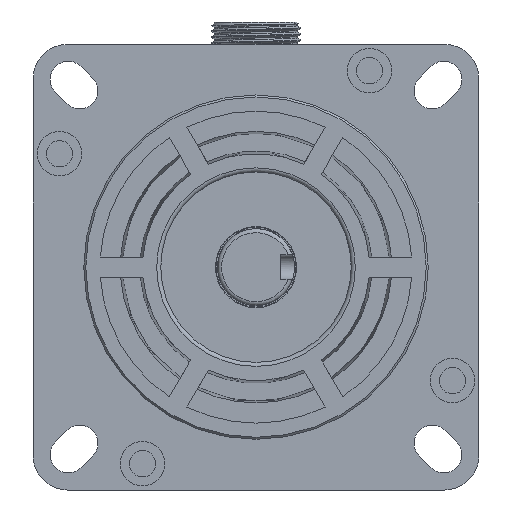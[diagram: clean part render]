
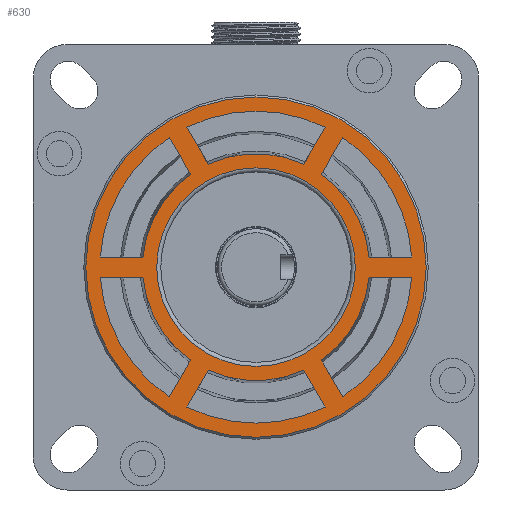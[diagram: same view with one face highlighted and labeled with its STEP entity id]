
A CAD part, front view. The second image highlights one B-rep face of the part: STEP entity #630.
In plain terms, the highlighted planar face has unit normal (0, -1, 0).
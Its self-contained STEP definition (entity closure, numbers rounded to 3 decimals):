
#630=ADVANCED_FACE('',(#1266,#1267,#1268,#1269,#1270,#1271,#1272,#1273),
#856,.T.);
#856=PLANE('',#5196);
#1050=CIRCLE('',#5182,42.);
#1051=CIRCLE('',#5183,38.5);
#1052=CIRCLE('',#5184,28.);
#1053=CIRCLE('',#5185,38.5);
#1054=CIRCLE('',#5186,28.);
#1055=CIRCLE('',#5187,38.5);
#1056=CIRCLE('',#5188,28.);
#1057=CIRCLE('',#5189,38.5);
#1058=CIRCLE('',#5190,28.);
#1059=CIRCLE('',#5191,38.5);
#1060=CIRCLE('',#5192,28.);
#1061=CIRCLE('',#5193,38.5);
#1062=CIRCLE('',#5194,28.);
#1063=CIRCLE('',#5195,24.5);
#1266=FACE_BOUND('',#1482,.T.);
#1267=FACE_BOUND('',#1483,.T.);
#1268=FACE_BOUND('',#1484,.T.);
#1269=FACE_BOUND('',#1485,.T.);
#1270=FACE_BOUND('',#1486,.T.);
#1271=FACE_BOUND('',#1487,.T.);
#1272=FACE_BOUND('',#1488,.T.);
#1273=FACE_BOUND('',#1489,.T.);
#1482=EDGE_LOOP('',(#2159));
#1483=EDGE_LOOP('',(#2160,#2161,#2162,#2163));
#1484=EDGE_LOOP('',(#2164,#2165,#2166,#2167));
#1485=EDGE_LOOP('',(#2168,#2169,#2170,#2171));
#1486=EDGE_LOOP('',(#2172,#2173,#2174,#2175));
#1487=EDGE_LOOP('',(#2176,#2177,#2178,#2179));
#1488=EDGE_LOOP('',(#2180,#2181,#2182,#2183));
#1489=EDGE_LOOP('',(#2184));
#2159=ORIENTED_EDGE('',*,*,#3786,.T.);
#2160=ORIENTED_EDGE('',*,*,#3787,.F.);
#2161=ORIENTED_EDGE('',*,*,#3788,.F.);
#2162=ORIENTED_EDGE('',*,*,#3789,.F.);
#2163=ORIENTED_EDGE('',*,*,#3790,.F.);
#2164=ORIENTED_EDGE('',*,*,#3791,.F.);
#2165=ORIENTED_EDGE('',*,*,#3792,.F.);
#2166=ORIENTED_EDGE('',*,*,#3793,.F.);
#2167=ORIENTED_EDGE('',*,*,#3794,.F.);
#2168=ORIENTED_EDGE('',*,*,#3795,.F.);
#2169=ORIENTED_EDGE('',*,*,#3796,.F.);
#2170=ORIENTED_EDGE('',*,*,#3797,.F.);
#2171=ORIENTED_EDGE('',*,*,#3798,.F.);
#2172=ORIENTED_EDGE('',*,*,#3799,.F.);
#2173=ORIENTED_EDGE('',*,*,#3800,.F.);
#2174=ORIENTED_EDGE('',*,*,#3801,.F.);
#2175=ORIENTED_EDGE('',*,*,#3802,.F.);
#2176=ORIENTED_EDGE('',*,*,#3803,.F.);
#2177=ORIENTED_EDGE('',*,*,#3804,.F.);
#2178=ORIENTED_EDGE('',*,*,#3805,.F.);
#2179=ORIENTED_EDGE('',*,*,#3806,.F.);
#2180=ORIENTED_EDGE('',*,*,#3807,.F.);
#2181=ORIENTED_EDGE('',*,*,#3808,.F.);
#2182=ORIENTED_EDGE('',*,*,#3809,.F.);
#2183=ORIENTED_EDGE('',*,*,#3810,.F.);
#2184=ORIENTED_EDGE('',*,*,#3811,.T.);
#3252=VERTEX_POINT('',#9883);
#3253=VERTEX_POINT('',#9885);
#3254=VERTEX_POINT('',#9886);
#3255=VERTEX_POINT('',#9888);
#3256=VERTEX_POINT('',#9890);
#3257=VERTEX_POINT('',#9893);
#3258=VERTEX_POINT('',#9894);
#3259=VERTEX_POINT('',#9896);
#3260=VERTEX_POINT('',#9898);
#3261=VERTEX_POINT('',#9901);
#3262=VERTEX_POINT('',#9902);
#3263=VERTEX_POINT('',#9904);
#3264=VERTEX_POINT('',#9906);
#3265=VERTEX_POINT('',#9909);
#3266=VERTEX_POINT('',#9910);
#3267=VERTEX_POINT('',#9912);
#3268=VERTEX_POINT('',#9914);
#3269=VERTEX_POINT('',#9917);
#3270=VERTEX_POINT('',#9918);
#3271=VERTEX_POINT('',#9920);
#3272=VERTEX_POINT('',#9922);
#3273=VERTEX_POINT('',#9925);
#3274=VERTEX_POINT('',#9926);
#3275=VERTEX_POINT('',#9928);
#3276=VERTEX_POINT('',#9930);
#3277=VERTEX_POINT('',#9933);
#3786=EDGE_CURVE('',#3252,#3252,#1050,.T.);
#3787=EDGE_CURVE('',#3253,#3254,#4352,.T.);
#3788=EDGE_CURVE('',#3255,#3253,#1051,.T.);
#3789=EDGE_CURVE('',#3256,#3255,#4353,.T.);
#3790=EDGE_CURVE('',#3254,#3256,#1052,.T.);
#3791=EDGE_CURVE('',#3257,#3258,#1053,.T.);
#3792=EDGE_CURVE('',#3259,#3257,#4354,.T.);
#3793=EDGE_CURVE('',#3260,#3259,#1054,.T.);
#3794=EDGE_CURVE('',#3258,#3260,#4355,.T.);
#3795=EDGE_CURVE('',#3261,#3262,#1055,.T.);
#3796=EDGE_CURVE('',#3263,#3261,#4356,.T.);
#3797=EDGE_CURVE('',#3264,#3263,#1056,.T.);
#3798=EDGE_CURVE('',#3262,#3264,#4357,.T.);
#3799=EDGE_CURVE('',#3265,#3266,#1057,.T.);
#3800=EDGE_CURVE('',#3267,#3265,#4358,.T.);
#3801=EDGE_CURVE('',#3268,#3267,#1058,.T.);
#3802=EDGE_CURVE('',#3266,#3268,#4359,.T.);
#3803=EDGE_CURVE('',#3269,#3270,#4360,.T.);
#3804=EDGE_CURVE('',#3271,#3269,#1059,.T.);
#3805=EDGE_CURVE('',#3272,#3271,#4361,.T.);
#3806=EDGE_CURVE('',#3270,#3272,#1060,.T.);
#3807=EDGE_CURVE('',#3273,#3274,#1061,.T.);
#3808=EDGE_CURVE('',#3275,#3273,#4362,.T.);
#3809=EDGE_CURVE('',#3276,#3275,#1062,.T.);
#3810=EDGE_CURVE('',#3274,#3276,#4363,.T.);
#3811=EDGE_CURVE('',#3277,#3277,#1063,.T.);
#4352=LINE('',#9884,#4714);
#4353=LINE('',#9889,#4715);
#4354=LINE('',#9895,#4716);
#4355=LINE('',#9899,#4717);
#4356=LINE('',#9903,#4718);
#4357=LINE('',#9907,#4719);
#4358=LINE('',#9911,#4720);
#4359=LINE('',#9915,#4721);
#4360=LINE('',#9916,#4722);
#4361=LINE('',#9921,#4723);
#4362=LINE('',#9927,#4724);
#4363=LINE('',#9931,#4725);
#4714=VECTOR('',#6065,1.);
#4715=VECTOR('',#6068,1.);
#4716=VECTOR('',#6073,1.);
#4717=VECTOR('',#6076,1.);
#4718=VECTOR('',#6079,1.);
#4719=VECTOR('',#6082,1.);
#4720=VECTOR('',#6085,1.);
#4721=VECTOR('',#6088,1.);
#4722=VECTOR('',#6089,1.);
#4723=VECTOR('',#6092,1.);
#4724=VECTOR('',#6097,1.);
#4725=VECTOR('',#6100,1.);
#5182=AXIS2_PLACEMENT_3D('',#9882,#6063,#6064);
#5183=AXIS2_PLACEMENT_3D('',#9887,#6066,#6067);
#5184=AXIS2_PLACEMENT_3D('',#9891,#6069,#6070);
#5185=AXIS2_PLACEMENT_3D('',#9892,#6071,#6072);
#5186=AXIS2_PLACEMENT_3D('',#9897,#6074,#6075);
#5187=AXIS2_PLACEMENT_3D('',#9900,#6077,#6078);
#5188=AXIS2_PLACEMENT_3D('',#9905,#6080,#6081);
#5189=AXIS2_PLACEMENT_3D('',#9908,#6083,#6084);
#5190=AXIS2_PLACEMENT_3D('',#9913,#6086,#6087);
#5191=AXIS2_PLACEMENT_3D('',#9919,#6090,#6091);
#5192=AXIS2_PLACEMENT_3D('',#9923,#6093,#6094);
#5193=AXIS2_PLACEMENT_3D('',#9924,#6095,#6096);
#5194=AXIS2_PLACEMENT_3D('',#9929,#6098,#6099);
#5195=AXIS2_PLACEMENT_3D('',#9932,#6101,#6102);
#5196=AXIS2_PLACEMENT_3D('',#9934,#6103,#6104);
#6063=DIRECTION('',(0.,-1.,0.));
#6064=DIRECTION('',(0.,0.,-1.));
#6065=DIRECTION('',(-1.,0.,0.));
#6066=DIRECTION('',(0.,-1.,0.));
#6067=DIRECTION('',(1.,0.,0.));
#6068=DIRECTION('',(0.5,0.,-0.866));
#6069=DIRECTION('',(0.,1.,0.));
#6070=DIRECTION('',(1.,0.,0.));
#6071=DIRECTION('',(0.,-1.,0.));
#6072=DIRECTION('',(1.,0.,0.));
#6073=DIRECTION('',(1.,0.,0.));
#6074=DIRECTION('',(0.,1.,0.));
#6075=DIRECTION('',(1.,0.,0.));
#6076=DIRECTION('',(-0.5,0.,-0.866));
#6077=DIRECTION('',(0.,-1.,0.));
#6078=DIRECTION('',(1.,0.,0.));
#6079=DIRECTION('',(0.5,0.,0.866));
#6080=DIRECTION('',(0.,1.,0.));
#6081=DIRECTION('',(1.,0.,0.));
#6082=DIRECTION('',(0.5,0.,-0.866));
#6083=DIRECTION('',(0.,-1.,0.));
#6084=DIRECTION('',(1.,0.,0.));
#6085=DIRECTION('',(-0.5,0.,0.866));
#6086=DIRECTION('',(0.,1.,0.));
#6087=DIRECTION('',(1.,0.,0.));
#6088=DIRECTION('',(1.,0.,0.));
#6089=DIRECTION('',(0.5,0.,0.866));
#6090=DIRECTION('',(0.,-1.,0.));
#6091=DIRECTION('',(1.,0.,0.));
#6092=DIRECTION('',(-1.,0.,0.));
#6093=DIRECTION('',(0.,1.,0.));
#6094=DIRECTION('',(1.,0.,0.));
#6095=DIRECTION('',(0.,-1.,0.));
#6096=DIRECTION('',(1.,0.,0.));
#6097=DIRECTION('',(-0.5,0.,-0.866));
#6098=DIRECTION('',(0.,1.,0.));
#6099=DIRECTION('',(1.,0.,0.));
#6100=DIRECTION('',(-0.5,0.,0.866));
#6101=DIRECTION('',(0.,1.,0.));
#6102=DIRECTION('',(1.,0.,0.));
#6103=DIRECTION('',(0.,-1.,0.));
#6104=DIRECTION('',(-1.,0.,0.));
#9882=CARTESIAN_POINT('',(103.938,5.034,-206.034));
#9883=CARTESIAN_POINT('',(103.938,5.034,-248.034));
#9884=CARTESIAN_POINT('',(103.938,5.034,-208.534));
#9885=CARTESIAN_POINT('',(142.356,5.034,-208.534));
#9886=CARTESIAN_POINT('',(131.826,5.034,-208.534));
#9887=CARTESIAN_POINT('',(103.938,5.034,-206.034));
#9888=CARTESIAN_POINT('',(125.312,5.034,-238.055));
#9889=CARTESIAN_POINT('',(106.103,5.034,-204.784));
#9890=CARTESIAN_POINT('',(120.047,5.034,-228.936));
#9891=CARTESIAN_POINT('',(103.938,5.034,-206.034));
#9892=CARTESIAN_POINT('',(103.938,5.034,-206.034));
#9893=CARTESIAN_POINT('',(142.356,5.034,-203.534));
#9894=CARTESIAN_POINT('',(125.312,5.034,-174.012));
#9895=CARTESIAN_POINT('',(103.938,5.034,-203.534));
#9896=CARTESIAN_POINT('',(131.826,5.034,-203.534));
#9897=CARTESIAN_POINT('',(103.938,5.034,-206.034));
#9898=CARTESIAN_POINT('',(120.047,5.034,-183.132));
#9899=CARTESIAN_POINT('',(106.103,5.034,-207.284));
#9900=CARTESIAN_POINT('',(103.938,5.034,-206.034));
#9901=CARTESIAN_POINT('',(120.982,5.034,-171.512));
#9902=CARTESIAN_POINT('',(86.893,5.034,-171.512));
#9903=CARTESIAN_POINT('',(101.772,5.034,-204.784));
#9904=CARTESIAN_POINT('',(115.717,5.034,-180.632));
#9905=CARTESIAN_POINT('',(103.938,5.034,-206.034));
#9906=CARTESIAN_POINT('',(92.159,5.034,-180.632));
#9907=CARTESIAN_POINT('',(106.103,5.034,-204.784));
#9908=CARTESIAN_POINT('',(103.938,5.034,-206.034));
#9909=CARTESIAN_POINT('',(82.563,5.034,-174.012));
#9910=CARTESIAN_POINT('',(65.519,5.034,-203.534));
#9911=CARTESIAN_POINT('',(101.772,5.034,-207.284));
#9912=CARTESIAN_POINT('',(87.828,5.034,-183.132));
#9913=CARTESIAN_POINT('',(103.938,5.034,-206.034));
#9914=CARTESIAN_POINT('',(76.049,5.034,-203.534));
#9915=CARTESIAN_POINT('',(103.938,5.034,-203.534));
#9916=CARTESIAN_POINT('',(101.772,5.034,-204.784));
#9917=CARTESIAN_POINT('',(82.563,5.034,-238.055));
#9918=CARTESIAN_POINT('',(87.828,5.034,-228.936));
#9919=CARTESIAN_POINT('',(103.938,5.034,-206.034));
#9920=CARTESIAN_POINT('',(65.519,5.034,-208.534));
#9921=CARTESIAN_POINT('',(103.938,5.034,-208.534));
#9922=CARTESIAN_POINT('',(76.049,5.034,-208.534));
#9923=CARTESIAN_POINT('',(103.938,5.034,-206.034));
#9924=CARTESIAN_POINT('',(103.938,5.034,-206.034));
#9925=CARTESIAN_POINT('',(86.893,5.034,-240.555));
#9926=CARTESIAN_POINT('',(120.982,5.034,-240.555));
#9927=CARTESIAN_POINT('',(106.103,5.034,-207.284));
#9928=CARTESIAN_POINT('',(92.159,5.034,-231.436));
#9929=CARTESIAN_POINT('',(103.938,5.034,-206.034));
#9930=CARTESIAN_POINT('',(115.717,5.034,-231.436));
#9931=CARTESIAN_POINT('',(101.772,5.034,-207.284));
#9932=CARTESIAN_POINT('',(103.938,5.034,-206.034));
#9933=CARTESIAN_POINT('',(128.438,5.034,-206.034));
#9934=CARTESIAN_POINT('',(103.938,5.034,-206.034));
